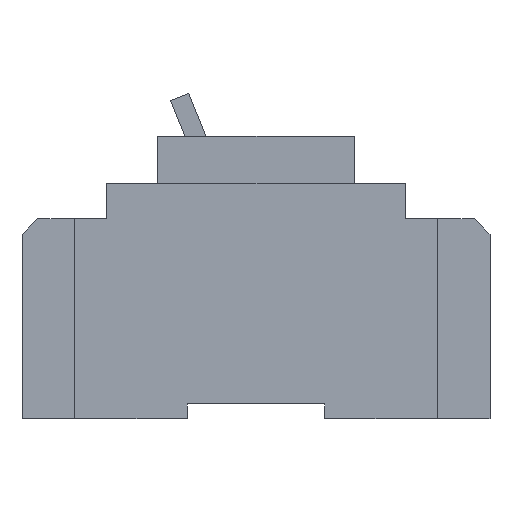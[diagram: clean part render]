
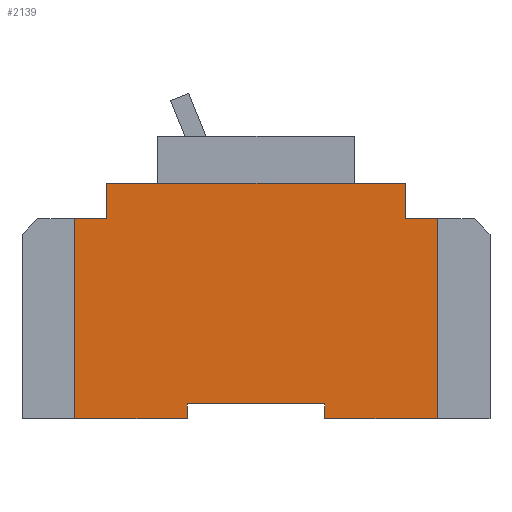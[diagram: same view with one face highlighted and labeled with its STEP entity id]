
A CAD part, left-side view. The second image highlights one B-rep face of the part: STEP entity #2139.
In plain terms, the highlighted planar face has unit normal (-1, 0, 0).
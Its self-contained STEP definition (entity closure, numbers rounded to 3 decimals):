
#1359 = VERTEX_POINT ( 'NONE', #7070 ) ;
#1360 = VERTEX_POINT ( 'NONE', #7069 ) ;
#1435 = VERTEX_POINT ( 'NONE', #7451 ) ;
#1437 = EDGE_CURVE ( 'NONE', #1435, #1438, #7450, .T. ) ;
#1438 = VERTEX_POINT ( 'NONE', #7446 ) ;
#1507 = EDGE_CURVE ( 'NONE', #1359, #1360, #7526, .T. ) ;
#1826 = EDGE_CURVE ( 'NONE', #1438, #1827, #8429, .T. ) ;
#1827 = VERTEX_POINT ( 'NONE', #8513 ) ;
#2112 = VERTEX_POINT ( 'NONE', #9245 ) ;
#2113 = ORIENTED_EDGE ( 'NONE', *, *, #2114, .F. ) ;
#2114 = EDGE_CURVE ( 'NONE', #2115, #2112, #9411, .T. ) ;
#2115 = VERTEX_POINT ( 'NONE', #9526 ) ;
#2116 = ORIENTED_EDGE ( 'NONE', *, *, #2117, .F. ) ;
#2117 = EDGE_CURVE ( 'NONE', #2118, #2115, #9525, .T. ) ;
#2118 = VERTEX_POINT ( 'NONE', #9521 ) ;
#2119 = ORIENTED_EDGE ( 'NONE', *, *, #2120, .F. ) ;
#2120 = EDGE_CURVE ( 'NONE', #1827, #2118, #9519, .T. ) ;
#2121 = ORIENTED_EDGE ( 'NONE', *, *, #1826, .F. ) ;
#2133 = EDGE_CURVE ( 'NONE', #1360, #2134, #9367, .T. ) ;
#2134 = VERTEX_POINT ( 'NONE', #9363 ) ;
#2139 = ADVANCED_FACE ( 'NONE', ( #9357 ), #9342, .F. ) ;
#2140 = EDGE_LOOP ( 'NONE', ( #2158, #2159, #2162, #2164, #2165, #2166, #2167, #2170, #2113, #2116, #2119, #2121 ) ) ;
#2158 = ORIENTED_EDGE ( 'NONE', *, *, #1437, .F. ) ;
#2159 = ORIENTED_EDGE ( 'NONE', *, *, #2160, .F. ) ;
#2160 = EDGE_CURVE ( 'NONE', #2161, #1435, #9498, .T. ) ;
#2161 = VERTEX_POINT ( 'NONE', #9494 ) ;
#2162 = ORIENTED_EDGE ( 'NONE', *, *, #2163, .F. ) ;
#2163 = EDGE_CURVE ( 'NONE', #2134, #2161, #9493, .T. ) ;
#2164 = ORIENTED_EDGE ( 'NONE', *, *, #2133, .F. ) ;
#2165 = ORIENTED_EDGE ( 'NONE', *, *, #1507, .F. ) ;
#2166 = ORIENTED_EDGE ( 'NONE', *, *, #2272, .F. ) ;
#2167 = ORIENTED_EDGE ( 'NONE', *, *, #2168, .F. ) ;
#2168 = EDGE_CURVE ( 'NONE', #2169, #2275, #9546, .T. ) ;
#2169 = VERTEX_POINT ( 'NONE', #9542 ) ;
#2170 = ORIENTED_EDGE ( 'NONE', *, *, #2171, .F. ) ;
#2171 = EDGE_CURVE ( 'NONE', #2112, #2169, #9541, .T. ) ;
#2272 = EDGE_CURVE ( 'NONE', #2275, #1359, #9815, .T. ) ;
#2275 = VERTEX_POINT ( 'NONE', #9811 ) ;
#7069 = CARTESIAN_POINT ( 'NONE',  ( -25., 80., 51. ) ) ;
#7070 = CARTESIAN_POINT ( 'NONE',  ( -25., 88.25, 51. ) ) ;
#7446 = CARTESIAN_POINT ( 'NONE',  ( -25., -4.25, 51. ) ) ;
#7447 = DIRECTION ( 'NONE',  ( 0., -1., 0. ) ) ;
#7448 = VECTOR ( 'NONE', #7447, 1000. ) ;
#7449 = CARTESIAN_POINT ( 'NONE',  ( -25., 0., 51. ) ) ;
#7450 = LINE ( 'NONE', #7449, #7448 ) ;
#7451 = CARTESIAN_POINT ( 'NONE',  ( -25., 4., 51. ) ) ;
#7523 = DIRECTION ( 'NONE',  ( 0., -1., 0. ) ) ;
#7524 = VECTOR ( 'NONE', #7523, 1000. ) ;
#7525 = CARTESIAN_POINT ( 'NONE',  ( -25., 0., 51. ) ) ;
#7526 = LINE ( 'NONE', #7525, #7524 ) ;
#8429 = LINE ( 'NONE', #8434, #8515 ) ;
#8434 = CARTESIAN_POINT ( 'NONE',  ( -25., -4.25, 0. ) ) ;
#8513 = CARTESIAN_POINT ( 'NONE',  ( -25., -4.25, 0. ) ) ;
#8514 = DIRECTION ( 'NONE',  ( 0., 0., -1. ) ) ;
#8515 = VECTOR ( 'NONE', #8514, 1000. ) ;
#9245 = CARTESIAN_POINT ( 'NONE',  ( -25., 59.5, 3.75 ) ) ;
#9340 = CARTESIAN_POINT ( 'NONE',  ( -25., 0., 0. ) ) ;
#9341 = AXIS2_PLACEMENT_3D ( 'NONE', #9340, #9489, #9488 ) ;
#9342 = PLANE ( 'NONE',  #9341 ) ;
#9357 = FACE_OUTER_BOUND ( 'NONE', #2140, .T. ) ;
#9363 = CARTESIAN_POINT ( 'NONE',  ( -25., 80., 60. ) ) ;
#9364 = DIRECTION ( 'NONE',  ( 0., 0., 1. ) ) ;
#9365 = VECTOR ( 'NONE', #9364, 1000. ) ;
#9366 = CARTESIAN_POINT ( 'NONE',  ( -25., 80., 0. ) ) ;
#9367 = LINE ( 'NONE', #9366, #9365 ) ;
#9411 = LINE ( 'NONE', #9529, #9528 ) ;
#9488 = DIRECTION ( 'NONE',  ( 0., 0., -1. ) ) ;
#9489 = DIRECTION ( 'NONE',  ( 1., 0., 0. ) ) ;
#9490 = DIRECTION ( 'NONE',  ( 0., -1., 0. ) ) ;
#9491 = VECTOR ( 'NONE', #9490, 1000. ) ;
#9492 = CARTESIAN_POINT ( 'NONE',  ( -25., 80., 60. ) ) ;
#9493 = LINE ( 'NONE', #9492, #9491 ) ;
#9494 = CARTESIAN_POINT ( 'NONE',  ( -25., 4., 60. ) ) ;
#9495 = DIRECTION ( 'NONE',  ( 0., 0., -1. ) ) ;
#9496 = VECTOR ( 'NONE', #9495, 1000. ) ;
#9497 = CARTESIAN_POINT ( 'NONE',  ( -25., 4., 60. ) ) ;
#9498 = LINE ( 'NONE', #9497, #9496 ) ;
#9516 = DIRECTION ( 'NONE',  ( 0., 1., 0. ) ) ;
#9517 = VECTOR ( 'NONE', #9516, 1000. ) ;
#9518 = CARTESIAN_POINT ( 'NONE',  ( -25., -8., 0. ) ) ;
#9519 = LINE ( 'NONE', #9518, #9517 ) ;
#9521 = CARTESIAN_POINT ( 'NONE',  ( -25., 24.5, 0. ) ) ;
#9522 = DIRECTION ( 'NONE',  ( 0., 0., 1. ) ) ;
#9523 = VECTOR ( 'NONE', #9522, 1000. ) ;
#9524 = CARTESIAN_POINT ( 'NONE',  ( -25., 24.5, 0. ) ) ;
#9525 = LINE ( 'NONE', #9524, #9523 ) ;
#9526 = CARTESIAN_POINT ( 'NONE',  ( -25., 24.5, 3.75 ) ) ;
#9527 = DIRECTION ( 'NONE',  ( 0., 1., 0. ) ) ;
#9528 = VECTOR ( 'NONE', #9527, 1000. ) ;
#9529 = CARTESIAN_POINT ( 'NONE',  ( -25., 24.5, 3.75 ) ) ;
#9538 = DIRECTION ( 'NONE',  ( 0., 0., -1. ) ) ;
#9539 = VECTOR ( 'NONE', #9538, 1000. ) ;
#9540 = CARTESIAN_POINT ( 'NONE',  ( -25., 59.5, 3.75 ) ) ;
#9541 = LINE ( 'NONE', #9540, #9539 ) ;
#9542 = CARTESIAN_POINT ( 'NONE',  ( -25., 59.5, 0. ) ) ;
#9543 = DIRECTION ( 'NONE',  ( 0., 1., 0. ) ) ;
#9544 = VECTOR ( 'NONE', #9543, 1000. ) ;
#9545 = CARTESIAN_POINT ( 'NONE',  ( -25., 59.5, 0. ) ) ;
#9546 = LINE ( 'NONE', #9545, #9544 ) ;
#9811 = CARTESIAN_POINT ( 'NONE',  ( -25., 88.25, 0. ) ) ;
#9812 = DIRECTION ( 'NONE',  ( 0., 0., 1. ) ) ;
#9813 = VECTOR ( 'NONE', #9812, 1000. ) ;
#9814 = CARTESIAN_POINT ( 'NONE',  ( -25., 88.25, 0. ) ) ;
#9815 = LINE ( 'NONE', #9814, #9813 ) ;
